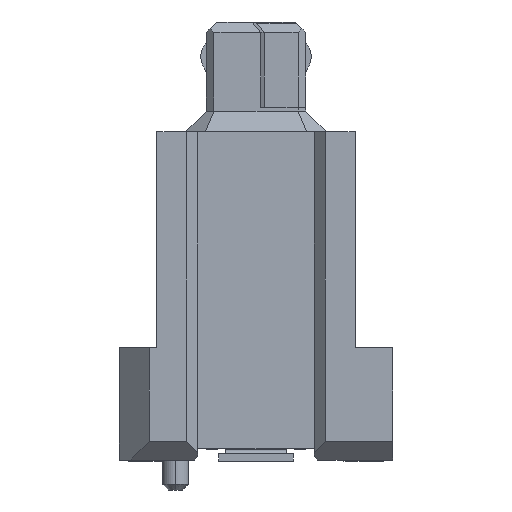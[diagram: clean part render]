
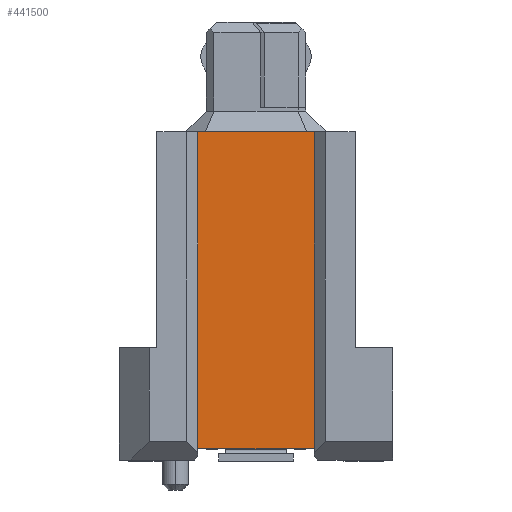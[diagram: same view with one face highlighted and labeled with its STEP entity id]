
A CAD part, left-side view. The second image highlights one B-rep face of the part: STEP entity #441500.
In plain terms, the highlighted planar face has unit normal (-1, 0, 0).
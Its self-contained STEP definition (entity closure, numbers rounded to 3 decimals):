
#398990=CARTESIAN_POINT('',(-0.032,-5.06,4.2));
#399000=VERTEX_POINT('',#398990);
#399030=CARTESIAN_POINT('',(-0.032,1.,4.2));
#399040=DIRECTION('',(0.,-1.,0.));
#399050=VECTOR('',#399040,1.);
#399060=LINE('',#399030,#399050);
#399070=CARTESIAN_POINT('',(-0.032,3.41,4.2));
#399080=VERTEX_POINT('',#399070);
#399090=EDGE_CURVE('',#399080,#399000,#399060,.T.);
#427280=CARTESIAN_POINT('',(-0.032,-5.06,1.1));
#427290=VERTEX_POINT('',#427280);
#427320=CARTESIAN_POINT('',(-0.032,-5.06,0.));
#427330=DIRECTION('',(0.,0.,-1.));
#427340=VECTOR('',#427330,1.);
#427350=LINE('',#427320,#427340);
#427360=EDGE_CURVE('',#399000,#427290,#427350,.T.);
#441270=CARTESIAN_POINT('',(-0.032,-2.36,5.3));
#441280=DIRECTION('',(-1.,0.,0.));
#441290=DIRECTION('',(0.,1.,0.));
#441300=AXIS2_PLACEMENT_3D('',#441270,#441280,#441290);
#441310=PLANE('',#441300);
#441320=CARTESIAN_POINT('',(-0.032,3.41,0.));
#441330=DIRECTION('',(0.,0.,-1.));
#441340=VECTOR('',#441330,1.);
#441350=LINE('',#441320,#441340);
#441360=CARTESIAN_POINT('',(-0.032,3.41,1.1));
#441370=VERTEX_POINT('',#441360);
#441380=EDGE_CURVE('',#399080,#441370,#441350,.T.);
#441390=ORIENTED_EDGE('',*,*,#441380,.T.);
#441400=ORIENTED_EDGE('',*,*,#399090,.F.);
#441410=ORIENTED_EDGE('',*,*,#427360,.F.);
#441420=CARTESIAN_POINT('',(-0.032,-1.36,1.1));
#441430=DIRECTION('',(0.,1.,0.));
#441440=VECTOR('',#441430,1.);
#441450=LINE('',#441420,#441440);
#441460=EDGE_CURVE('',#427290,#441370,#441450,.T.);
#441470=ORIENTED_EDGE('',*,*,#441460,.F.);
#441480=EDGE_LOOP('',(#441470,#441410,#441400,#441390));
#441490=FACE_OUTER_BOUND('',#441480,.T.);
#441500=ADVANCED_FACE('',(#441490),#441310,.T.);
